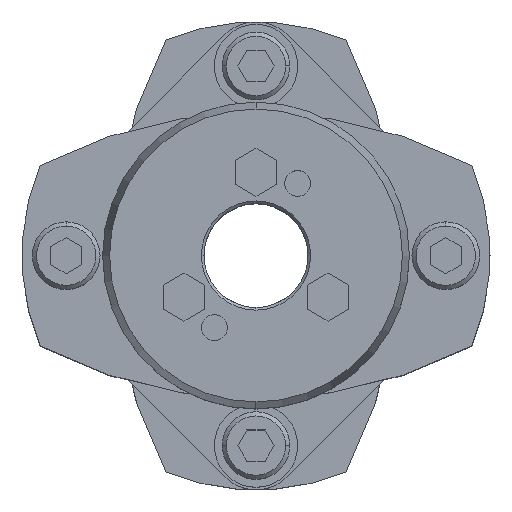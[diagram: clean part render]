
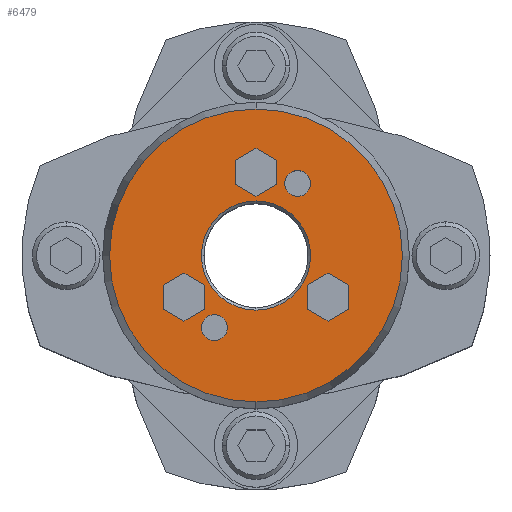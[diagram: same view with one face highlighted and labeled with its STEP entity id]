
A CAD part, top view. The second image highlights one B-rep face of the part: STEP entity #6479.
In plain terms, the highlighted planar face has unit normal (0, 0, 1).
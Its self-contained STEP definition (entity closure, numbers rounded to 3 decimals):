
#1677=CARTESIAN_POINT('',(0.,10.5,52.0));
#1678=VERTEX_POINT('',#1677);
#1694=CARTESIAN_POINT('',(0.,-10.5,52.0));
#1695=VERTEX_POINT('',#1694);
#1702=CARTESIAN_POINT('',(0.,0.,52.0));
#1703=DIRECTION('',(0.0,0.0,1.0));
#1704=DIRECTION('',(0.0,1.0,0.0));
#1705=AXIS2_PLACEMENT_3D('',#1702,#1703,#1704);
#1706=CIRCLE('',#1705,10.5);
#1707=EDGE_CURVE('',#1695,#1678,#1706,.T.);
#1865=CARTESIAN_POINT('',(0.,-28.16,52.0));
#1866=VERTEX_POINT('',#1865);
#1873=CARTESIAN_POINT('',(0.,28.16,52.0));
#1874=VERTEX_POINT('',#1873);
#1875=CARTESIAN_POINT('',(0.,0.,52.0));
#1876=DIRECTION('',(0.0,0.0,-1.0));
#1877=DIRECTION('',(0.0,-1.0,0.0));
#1878=AXIS2_PLACEMENT_3D('',#1875,#1876,#1877);
#1879=CIRCLE('',#1878,28.16);
#1880=EDGE_CURVE('',#1866,#1874,#1879,.T.);
#2123=CARTESIAN_POINT('',(8.,16.356,52.0));
#2124=VERTEX_POINT('',#2123);
#2140=CARTESIAN_POINT('',(8.,11.356,52.0));
#2141=VERTEX_POINT('',#2140);
#2148=CARTESIAN_POINT('',(8.,13.856,52.0));
#2149=DIRECTION('',(0.0,0.0,-1.0));
#2150=DIRECTION('',(0.0,1.0,0.0));
#2151=AXIS2_PLACEMENT_3D('',#2148,#2149,#2150);
#2152=CIRCLE('',#2151,2.5);
#2153=EDGE_CURVE('',#2124,#2141,#2152,.T.);
#2165=CARTESIAN_POINT('',(-8.,-11.356,52.0));
#2166=VERTEX_POINT('',#2165);
#2182=CARTESIAN_POINT('',(-8.,-16.356,52.0));
#2183=VERTEX_POINT('',#2182);
#2190=CARTESIAN_POINT('',(-8.,-13.856,52.0));
#2191=DIRECTION('',(0.0,0.0,-1.0));
#2192=DIRECTION('',(0.0,1.0,0.0));
#2193=AXIS2_PLACEMENT_3D('',#2190,#2191,#2192);
#2194=CIRCLE('',#2193,2.5);
#2195=EDGE_CURVE('',#2166,#2183,#2194,.T.);
#4995=CARTESIAN_POINT('',(13.856,-3.381,52.0));
#4996=VERTEX_POINT('',#4995);
#5003=CARTESIAN_POINT('',(9.856,-5.691,52.0));
#5004=VERTEX_POINT('',#5003);
#5005=CARTESIAN_POINT('',(9.856,-5.691,52.0));
#5006=DIRECTION('',(0.866,0.5,0.0));
#5007=VECTOR('',#5006,4.619);
#5008=LINE('',#5005,#5007);
#5009=EDGE_CURVE('',#5004,#4996,#5008,.T.);
#5033=CARTESIAN_POINT('',(17.856,-5.691,52.0));
#5034=VERTEX_POINT('',#5033);
#5041=CARTESIAN_POINT('',(13.856,-3.381,52.0));
#5042=DIRECTION('',(0.866,-0.5,0.0));
#5043=VECTOR('',#5042,4.619);
#5044=LINE('',#5041,#5043);
#5045=EDGE_CURVE('',#4996,#5034,#5044,.T.);
#5064=CARTESIAN_POINT('',(17.856,-10.309,52.0));
#5065=VERTEX_POINT('',#5064);
#5072=CARTESIAN_POINT('',(17.856,-5.691,52.0));
#5073=DIRECTION('',(0.0,-1.0,0.0));
#5074=VECTOR('',#5073,4.619);
#5075=LINE('',#5072,#5074);
#5076=EDGE_CURVE('',#5034,#5065,#5075,.T.);
#5095=CARTESIAN_POINT('',(13.856,-12.619,52.0));
#5096=VERTEX_POINT('',#5095);
#5103=CARTESIAN_POINT('',(17.856,-10.309,52.0));
#5104=DIRECTION('',(-0.866,-0.5,0.0));
#5105=VECTOR('',#5104,4.619);
#5106=LINE('',#5103,#5105);
#5107=EDGE_CURVE('',#5065,#5096,#5106,.T.);
#5126=CARTESIAN_POINT('',(9.856,-10.309,52.0));
#5127=VERTEX_POINT('',#5126);
#5134=CARTESIAN_POINT('',(13.856,-12.619,52.0));
#5135=DIRECTION('',(-0.866,0.5,0.0));
#5136=VECTOR('',#5135,4.619);
#5137=LINE('',#5134,#5136);
#5138=EDGE_CURVE('',#5096,#5127,#5137,.T.);
#5156=CARTESIAN_POINT('',(9.856,-10.309,52.0));
#5157=DIRECTION('',(0.0,1.0,0.0));
#5158=VECTOR('',#5157,4.619);
#5159=LINE('',#5156,#5158);
#5160=EDGE_CURVE('',#5127,#5004,#5159,.T.);
#5195=CARTESIAN_POINT('',(0.,20.619,52.0));
#5196=VERTEX_POINT('',#5195);
#5203=CARTESIAN_POINT('',(-4.,18.309,52.0));
#5204=VERTEX_POINT('',#5203);
#5205=CARTESIAN_POINT('',(-4.,18.309,52.0));
#5206=DIRECTION('',(0.866,0.5,0.0));
#5207=VECTOR('',#5206,4.619);
#5208=LINE('',#5205,#5207);
#5209=EDGE_CURVE('',#5204,#5196,#5208,.T.);
#5233=CARTESIAN_POINT('',(4.,18.309,52.0));
#5234=VERTEX_POINT('',#5233);
#5241=CARTESIAN_POINT('',(0.,20.619,52.0));
#5242=DIRECTION('',(0.866,-0.5,0.0));
#5243=VECTOR('',#5242,4.619);
#5244=LINE('',#5241,#5243);
#5245=EDGE_CURVE('',#5196,#5234,#5244,.T.);
#5264=CARTESIAN_POINT('',(4.,13.691,52.0));
#5265=VERTEX_POINT('',#5264);
#5272=CARTESIAN_POINT('',(4.,18.309,52.0));
#5273=DIRECTION('',(0.0,-1.0,0.0));
#5274=VECTOR('',#5273,4.619);
#5275=LINE('',#5272,#5274);
#5276=EDGE_CURVE('',#5234,#5265,#5275,.T.);
#5295=CARTESIAN_POINT('',(0.,11.381,52.0));
#5296=VERTEX_POINT('',#5295);
#5303=CARTESIAN_POINT('',(4.,13.691,52.0));
#5304=DIRECTION('',(-0.866,-0.5,0.0));
#5305=VECTOR('',#5304,4.619);
#5306=LINE('',#5303,#5305);
#5307=EDGE_CURVE('',#5265,#5296,#5306,.T.);
#5326=CARTESIAN_POINT('',(-4.,13.691,52.0));
#5327=VERTEX_POINT('',#5326);
#5334=CARTESIAN_POINT('',(0.,11.381,52.0));
#5335=DIRECTION('',(-0.866,0.5,0.0));
#5336=VECTOR('',#5335,4.619);
#5337=LINE('',#5334,#5336);
#5338=EDGE_CURVE('',#5296,#5327,#5337,.T.);
#5356=CARTESIAN_POINT('',(-4.,13.691,52.0));
#5357=DIRECTION('',(0.0,1.0,0.0));
#5358=VECTOR('',#5357,4.619);
#5359=LINE('',#5356,#5358);
#5360=EDGE_CURVE('',#5327,#5204,#5359,.T.);
#5395=CARTESIAN_POINT('',(-13.856,-3.381,52.0));
#5396=VERTEX_POINT('',#5395);
#5403=CARTESIAN_POINT('',(-17.856,-5.691,52.0));
#5404=VERTEX_POINT('',#5403);
#5405=CARTESIAN_POINT('',(-17.856,-5.691,52.0));
#5406=DIRECTION('',(0.866,0.5,0.0));
#5407=VECTOR('',#5406,4.619);
#5408=LINE('',#5405,#5407);
#5409=EDGE_CURVE('',#5404,#5396,#5408,.T.);
#5433=CARTESIAN_POINT('',(-9.856,-5.691,52.0));
#5434=VERTEX_POINT('',#5433);
#5441=CARTESIAN_POINT('',(-13.856,-3.381,52.0));
#5442=DIRECTION('',(0.866,-0.5,0.0));
#5443=VECTOR('',#5442,4.619);
#5444=LINE('',#5441,#5443);
#5445=EDGE_CURVE('',#5396,#5434,#5444,.T.);
#5464=CARTESIAN_POINT('',(-9.856,-10.309,52.0));
#5465=VERTEX_POINT('',#5464);
#5472=CARTESIAN_POINT('',(-9.856,-5.691,52.0));
#5473=DIRECTION('',(0.0,-1.0,0.0));
#5474=VECTOR('',#5473,4.619);
#5475=LINE('',#5472,#5474);
#5476=EDGE_CURVE('',#5434,#5465,#5475,.T.);
#5495=CARTESIAN_POINT('',(-13.856,-12.619,52.0));
#5496=VERTEX_POINT('',#5495);
#5503=CARTESIAN_POINT('',(-9.856,-10.309,52.0));
#5504=DIRECTION('',(-0.866,-0.5,0.0));
#5505=VECTOR('',#5504,4.619);
#5506=LINE('',#5503,#5505);
#5507=EDGE_CURVE('',#5465,#5496,#5506,.T.);
#5526=CARTESIAN_POINT('',(-17.856,-10.309,52.0));
#5527=VERTEX_POINT('',#5526);
#5534=CARTESIAN_POINT('',(-13.856,-12.619,52.0));
#5535=DIRECTION('',(-0.866,0.5,0.0));
#5536=VECTOR('',#5535,4.619);
#5537=LINE('',#5534,#5536);
#5538=EDGE_CURVE('',#5496,#5527,#5537,.T.);
#5556=CARTESIAN_POINT('',(-17.856,-10.309,52.0));
#5557=DIRECTION('',(0.0,1.0,0.0));
#5558=VECTOR('',#5557,4.619);
#5559=LINE('',#5556,#5558);
#5560=EDGE_CURVE('',#5527,#5404,#5559,.T.);
#5586=CARTESIAN_POINT('',(-8.,-13.856,52.0));
#5587=DIRECTION('',(0.0,0.0,-1.0));
#5588=DIRECTION('',(0.0,1.0,0.0));
#5589=AXIS2_PLACEMENT_3D('',#5586,#5587,#5588);
#5590=CIRCLE('',#5589,2.5);
#5591=EDGE_CURVE('',#2183,#2166,#5590,.T.);
#5620=CARTESIAN_POINT('',(8.,13.856,52.0));
#5621=DIRECTION('',(0.0,0.0,-1.0));
#5622=DIRECTION('',(0.0,1.0,0.0));
#5623=AXIS2_PLACEMENT_3D('',#5620,#5621,#5622);
#5624=CIRCLE('',#5623,2.5);
#5625=EDGE_CURVE('',#2141,#2124,#5624,.T.);
#6418=CARTESIAN_POINT('',(0.,0.,52.0));
#6419=DIRECTION('',(0.0,0.0,-1.0));
#6420=DIRECTION('',(0.0,-1.0,0.0));
#6421=AXIS2_PLACEMENT_3D('',#6418,#6419,#6420);
#6422=CIRCLE('',#6421,28.16);
#6423=EDGE_CURVE('',#1874,#1866,#6422,.T.);
#6428=CARTESIAN_POINT('',(0.,2.682,52.0));
#6429=DIRECTION('',(0.0,0.0,1.0));
#6430=DIRECTION('',(0.0,1.0,0.0));
#6431=AXIS2_PLACEMENT_3D('',#6428,#6429,#6430);
#6432=PLANE('',#6431);
#6433=ORIENTED_EDGE('',*,*,#6423,.F.);
#6434=ORIENTED_EDGE('',*,*,#1880,.F.);
#6435=EDGE_LOOP('',(#6433,#6434));
#6436=FACE_OUTER_BOUND('',#6435,.T.);
#6437=ORIENTED_EDGE('',*,*,#5009,.T.);
#6438=ORIENTED_EDGE('',*,*,#5045,.T.);
#6439=ORIENTED_EDGE('',*,*,#5076,.T.);
#6440=ORIENTED_EDGE('',*,*,#5107,.T.);
#6441=ORIENTED_EDGE('',*,*,#5138,.T.);
#6442=ORIENTED_EDGE('',*,*,#5160,.T.);
#6443=EDGE_LOOP('',(#6437,#6438,#6439,#6440,#6441,#6442));
#6444=FACE_BOUND('',#6443,.T.);
#6445=ORIENTED_EDGE('',*,*,#5209,.T.);
#6446=ORIENTED_EDGE('',*,*,#5245,.T.);
#6447=ORIENTED_EDGE('',*,*,#5276,.T.);
#6448=ORIENTED_EDGE('',*,*,#5307,.T.);
#6449=ORIENTED_EDGE('',*,*,#5338,.T.);
#6450=ORIENTED_EDGE('',*,*,#5360,.T.);
#6451=EDGE_LOOP('',(#6445,#6446,#6447,#6448,#6449,#6450));
#6452=FACE_BOUND('',#6451,.T.);
#6453=ORIENTED_EDGE('',*,*,#5409,.T.);
#6454=ORIENTED_EDGE('',*,*,#5445,.T.);
#6455=ORIENTED_EDGE('',*,*,#5476,.T.);
#6456=ORIENTED_EDGE('',*,*,#5507,.T.);
#6457=ORIENTED_EDGE('',*,*,#5538,.T.);
#6458=ORIENTED_EDGE('',*,*,#5560,.T.);
#6459=EDGE_LOOP('',(#6453,#6454,#6455,#6456,#6457,#6458));
#6460=FACE_BOUND('',#6459,.T.);
#6461=ORIENTED_EDGE('',*,*,#2195,.T.);
#6462=ORIENTED_EDGE('',*,*,#5591,.T.);
#6463=EDGE_LOOP('',(#6461,#6462));
#6464=FACE_BOUND('',#6463,.T.);
#6465=ORIENTED_EDGE('',*,*,#2153,.T.);
#6466=ORIENTED_EDGE('',*,*,#5625,.T.);
#6467=EDGE_LOOP('',(#6465,#6466));
#6468=FACE_BOUND('',#6467,.T.);
#6469=ORIENTED_EDGE('',*,*,#1707,.F.);
#6470=CARTESIAN_POINT('',(0.,0.,52.0));
#6471=DIRECTION('',(0.0,0.0,1.0));
#6472=DIRECTION('',(0.0,1.0,0.0));
#6473=AXIS2_PLACEMENT_3D('',#6470,#6471,#6472);
#6474=CIRCLE('',#6473,10.5);
#6475=EDGE_CURVE('',#1678,#1695,#6474,.T.);
#6476=ORIENTED_EDGE('',*,*,#6475,.F.);
#6477=EDGE_LOOP('',(#6469,#6476));
#6478=FACE_BOUND('',#6477,.T.);
#6479=ADVANCED_FACE('',(#6436,#6444,#6452,#6460,#6464,#6468,#6478),#6432,.T.);
